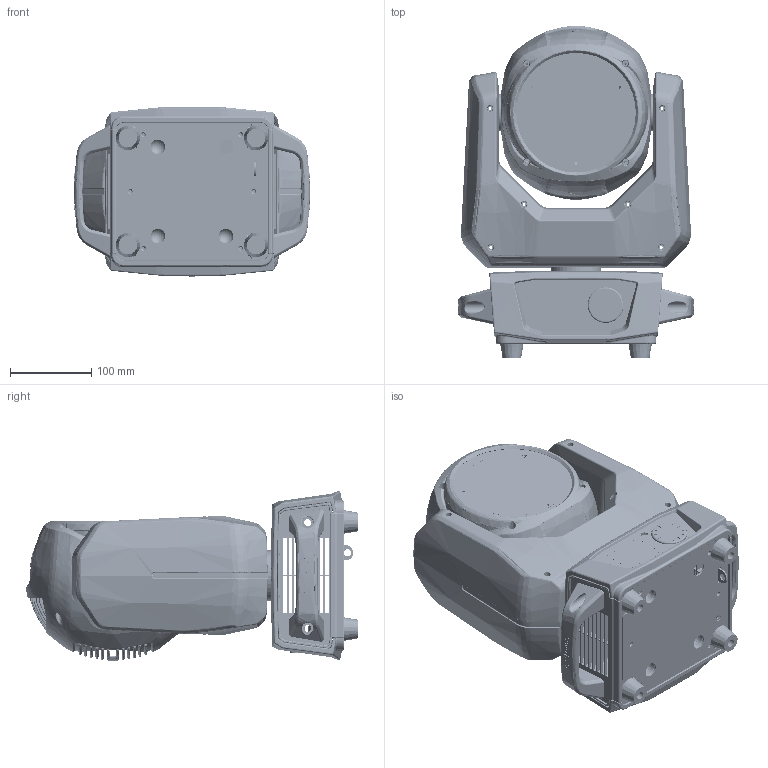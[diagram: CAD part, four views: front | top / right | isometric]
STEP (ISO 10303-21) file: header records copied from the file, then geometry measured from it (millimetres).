
FILE_DESCRIPTION(('HOOPS Exchange Step'),'2;1');
FILE_NAME('E:\cdb\hoops_acs\acs\9788\78411\013100-4-Light Fixture.step','2024-06-25T15:21:17+02:00',('caddok'),('Unknown organisation'),'HOOPS Exchange 2024.0','HOOPS Exchange','Unknown authorisation');
FILE_SCHEMA( ('AP242_MANAGED_MODEL_BASED_3D_ENGINEERING_MIM_LF {1 0 10303 442 1 1 4 }') );
Length unit declared in the file: millimetre
Products named in the file (2): Standard; 013100-4-Light Fixture
Assembly tree (1 placements, depth 2):
  013100-4-Light Fixture
    Standard
Bounding box: 291 x 408.95 x 208.77 mm (x, y, z)
Topology: 49 solids, 58 shells, 6071 faces, 15858 edges, 9877 vertices
Faces by surface type: bspline 2976, plane 1730, cylinder 1099, cone 231, torus 29, sphere 6
Full cylindrical faces by diameter (mm): 2 x16, 2.5 x30, 3 x2, 3.2 x3, 3.5 x74, 4 x30, 4.2 x4, 4.5 x16, 5.5 x4, 6 x2, 7 x6, 8 x1, 8.5 x8, 9 x3, 10 x6, 12 x1, 12.5 x2, 13.5 x3, 14 x4, 16 x4, 18 x4, 19.5 x2, 20 x9, 21.5 x2, 22 x4, 22.5 x6, 23.5 x1, 24 x6, 35 x2, 36.5 x2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
Entity records: 455396 total; most frequent: CARTESIAN_POINT 332515, ORIENTED_EDGE 31469, EDGE_CURVE 15804, DIRECTION 15751, VERTEX_POINT 9870, B_SPLINE_CURVE_WITH_KNOTS 8420, EDGE_LOOP 6644, FACE_BOUND 6644
